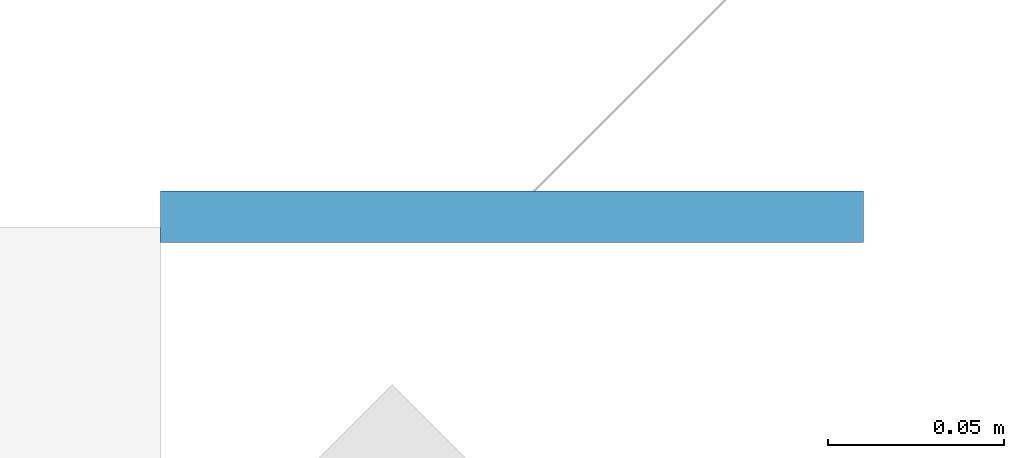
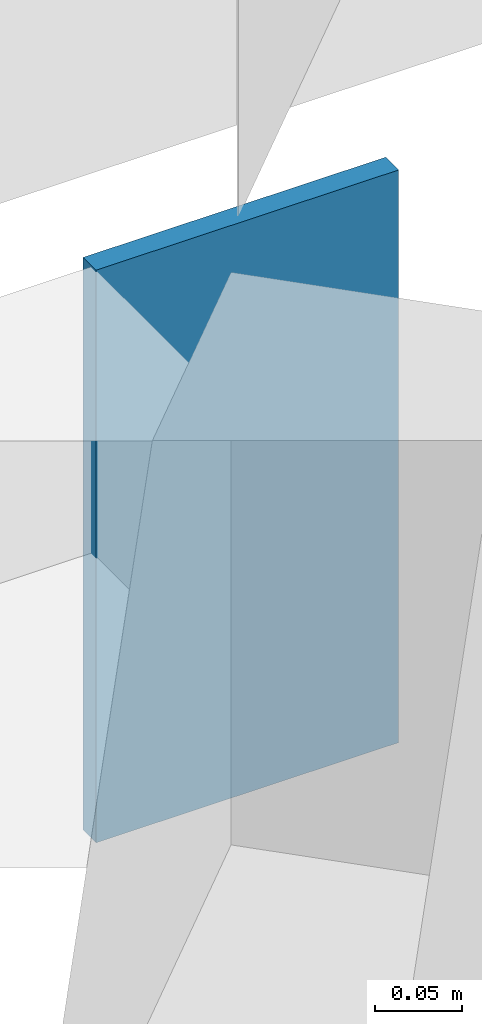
# One storey, part 4 of 37: 1 beam.
"""IFC4X3_ADD2 building model written with IfcOpenShell, lengths in millimetres."""

from ifc_helpers import new_model, si_unit, direction, frame, origin_with_axes, origin_2d_with_axis, place, context, subcontext, project, spatial, rectangle, extrude, source, transform, mapped, material, type_object, type_shapes, element, save


model = new_model("IFC4X3_ADD2")

# Units and contexts
model_context = context("Model", 3, precision=1e-05, world=origin_with_axes(), true_north=direction((0.0, 1.0)))
body_context = subcontext(model_context, "Body", "Model", "MODEL_VIEW")
ifc_project = project(units=[si_unit("LENGTHUNIT", "METRE", prefix="MILLI"), si_unit("AREAUNIT", "SQUARE_METRE"), si_unit("VOLUMEUNIT", "CUBIC_METRE"), si_unit("PLANEANGLEUNIT", "RADIAN"), si_unit("TIMEUNIT", "SECOND"), si_unit("MASSUNIT", "GRAM")], contexts=[model_context])

# Site, building, storey
site_placement = place(None, origin_with_axes())
site = spatial("IfcSite", under=ifc_project, at=site_placement, Name="Site", CompositionType="ELEMENT")
building_placement = place(site_placement, origin_with_axes())
building = spatial("IfcBuilding", under=site, at=building_placement, Name="IFC Building Story")
storey_placement = place(building_placement, frame((0.0, 0.0, 14400.0), z_axis=(0.0, 0.0, 1.0), x_axis=(1.0, 0.0, 0.0)))
storey = spatial("IfcBuildingStorey", under=building, at=storey_placement, Name="040", Elevation=14400.0)

# Beam
ifc_material = material(Name="BB_Beton_Bestaand")
beam_type = type_object("IfcBeamType", Name="BB_XX_Betonbalk_ rechthoekig_ center-center_SFB_200 x 400 mm9", PredefinedType="NOTDEFINED")
shared_shape = source(origin_with_axes(), body_context, "Body", "SweptSolid", [
    extrude(rectangle(XDim=200.0, YDim=14.75819604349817, at=origin_2d_with_axis()), frame((-24435.0, 38607.62090288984, 13800.0), z_axis=(0.0, 0.0, 1.0), x_axis=(1.0, 0.0, 0.0)), (0.0, 0.0, 1.0), 400.0),
])
type_shapes(beam_type, [shared_shape])
beam_placement = place(storey_placement, frame((0.0, 0.0, -14400.0), z_axis=(0.0, 0.0, 1.0), x_axis=(1.0, 0.0, 0.0)))
element("IfcBeam", 1, at=beam_placement, inside=storey, type_object=beam_type, material=ifc_material, Name="BB_XX_Betonbalk, rechthoekig, center-center_SFB:200 x 400 mm", ObjectType="200 mm x 400 mm", PredefinedType="BEAM", context=body_context, shape_type="MappedRepresentation", body=[
    mapped(shared_shape, transform((0.0, 0.0, 0.0))),
])

save(model, "model.ifc")
